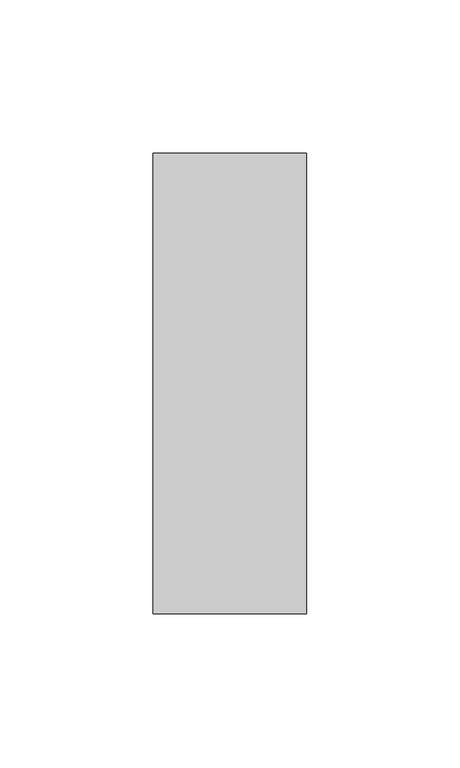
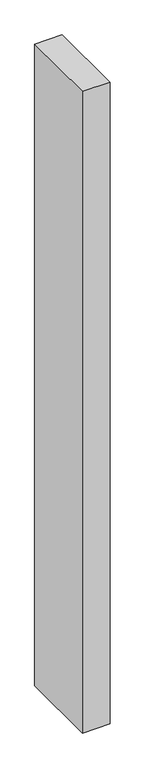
"""IFC4 building model written with IfcOpenShell, lengths in millimetres: member geometry, Прямоугольный импост : 50 x 150 мм."""

from ifc_helpers import new_model, si_unit, frame, origin, place, context, project, spatial, polyline, outline, extrude, source, transform, mapped, element, save


def member_388bba21(model_context):
    return source(origin(), model_context, "Body", "SweptSolid", [
        extrude(outline(polyline([(25.0, 75.0), (25.0, -75.0), (-25.0, -75.0), (-25.0, 75.0), (25.0, 75.0)])), frame((0.0, 0.0, -1231.4988031), z_axis=(0.0, 0.0, 1.0), x_axis=(1.0, 0.0, 0.0)), (0.0, 0.0, 1.0), 1231.4988031),
    ])


if __name__ == "__main__":
    model = new_model("IFC4")
    model_context = context("Model", 3, world=origin())
    ifc_project = project(units=[si_unit("LENGTHUNIT", "METRE", prefix="MILLI")], contexts=[model_context])
    site = spatial("IfcSite", under=ifc_project)
    building = spatial("IfcBuilding", under=site)
    placement = place(None, origin())
    member_shape = member_388bba21(model_context)
    element("IfcMember", 1, ObjectType="Прямоугольный импост : 50 x 150 мм", at=placement, inside=building, context=model_context, shape_type="MappedRepresentation", body=[
        mapped(member_shape, transform((0.0, 0.0, 0.0), x_axis=(1.0, 0.0, 0.0), y_axis=(0.0, 1.0, 0.0), z_axis=(0.0, 0.0, 1.0))),
    ])
    save(model, "model.ifc")
